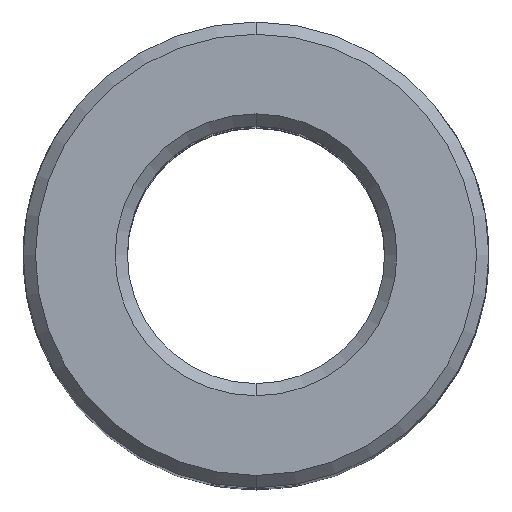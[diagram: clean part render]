
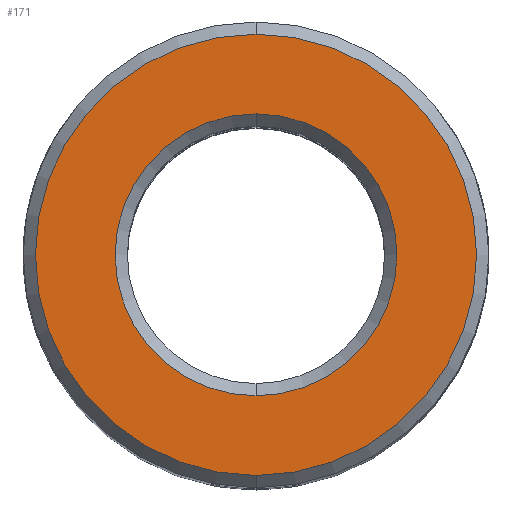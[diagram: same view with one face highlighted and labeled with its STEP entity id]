
A CAD part, top view. The second image highlights one B-rep face of the part: STEP entity #171.
In plain terms, the highlighted planar face has unit normal (0, 0, 1).
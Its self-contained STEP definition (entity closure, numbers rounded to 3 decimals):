
#43 = ORIENTED_EDGE ( 'NONE', *, *, #194, .T. ) ;
#62 = AXIS2_PLACEMENT_3D ( 'NONE', #992, #963, #974 ) ;
#153 = EDGE_LOOP ( 'NONE', ( #520, #43 ) ) ;
#160 = FACE_BOUND ( 'NONE', #153, .T. ) ;
#171 = ADVANCED_FACE ( 'NONE', ( #160, #1197 ), #1052, .F. ) ;
#180 = CIRCLE ( 'NONE', #638, 18. ) ;
#194 = EDGE_CURVE ( 'NONE', #436, #501, #659, .T. ) ;
#209 = CARTESIAN_POINT ( 'NONE',  ( 0., 0., 0. ) ) ;
#217 = AXIS2_PLACEMENT_3D ( 'NONE', #209, #270, #826 ) ;
#240 = DIRECTION ( 'NONE',  ( 0., 0., 1. ) ) ;
#270 = DIRECTION ( 'NONE',  ( 0., 0., -1. ) ) ;
#285 = CIRCLE ( 'NONE', #62, 18. ) ;
#292 = EDGE_LOOP ( 'NONE', ( #855, #453 ) ) ;
#333 = EDGE_CURVE ( 'NONE', #379, #342, #285, .T. ) ;
#342 = VERTEX_POINT ( 'NONE', #1274 ) ;
#379 = VERTEX_POINT ( 'NONE', #817 ) ;
#436 = VERTEX_POINT ( 'NONE', #1167 ) ;
#438 = EDGE_CURVE ( 'NONE', #501, #436, #736, .T. ) ;
#453 = ORIENTED_EDGE ( 'NONE', *, *, #550, .T. ) ;
#490 = CARTESIAN_POINT ( 'NONE',  ( 0., -11.5, 0. ) ) ;
#501 = VERTEX_POINT ( 'NONE', #490 ) ;
#520 = ORIENTED_EDGE ( 'NONE', *, *, #438, .T. ) ;
#550 = EDGE_CURVE ( 'NONE', #342, #379, #180, .T. ) ;
#638 = AXIS2_PLACEMENT_3D ( 'NONE', #1142, #240, #1342 ) ;
#659 = CIRCLE ( 'NONE', #1007, 11.5 ) ;
#736 = CIRCLE ( 'NONE', #217, 11.5 ) ;
#817 = CARTESIAN_POINT ( 'NONE',  ( 0., 18., 0. ) ) ;
#826 = DIRECTION ( 'NONE',  ( 0., 1., 0. ) ) ;
#830 = DIRECTION ( 'NONE',  ( 0., 1., 0. ) ) ;
#855 = ORIENTED_EDGE ( 'NONE', *, *, #333, .T. ) ;
#940 = AXIS2_PLACEMENT_3D ( 'NONE', #1045, #1042, #1064 ) ;
#963 = DIRECTION ( 'NONE',  ( 0., 0., 1. ) ) ;
#974 = DIRECTION ( 'NONE',  ( 0., 1., 0. ) ) ;
#992 = CARTESIAN_POINT ( 'NONE',  ( 0., 0., 0. ) ) ;
#1006 = CARTESIAN_POINT ( 'NONE',  ( 0., 0., 0. ) ) ;
#1007 = AXIS2_PLACEMENT_3D ( 'NONE', #1006, #1012, #830 ) ;
#1012 = DIRECTION ( 'NONE',  ( 0., 0., -1. ) ) ;
#1042 = DIRECTION ( 'NONE',  ( 0., 0., -1. ) ) ;
#1045 = CARTESIAN_POINT ( 'NONE',  ( 0., 10.5, 0. ) ) ;
#1052 = PLANE ( 'NONE',  #940 ) ;
#1064 = DIRECTION ( 'NONE',  ( 0., 1., 0. ) ) ;
#1142 = CARTESIAN_POINT ( 'NONE',  ( 0., 0., 0. ) ) ;
#1167 = CARTESIAN_POINT ( 'NONE',  ( 0., 11.5, 0. ) ) ;
#1197 = FACE_OUTER_BOUND ( 'NONE', #292, .T. ) ;
#1274 = CARTESIAN_POINT ( 'NONE',  ( 0., -18., 0. ) ) ;
#1342 = DIRECTION ( 'NONE',  ( 0., 1., 0. ) ) ;
